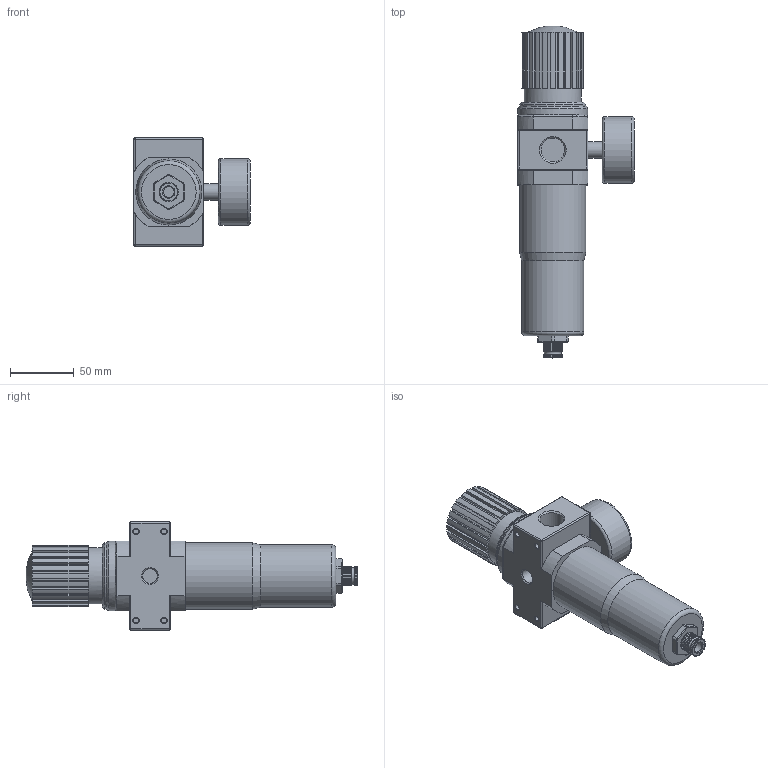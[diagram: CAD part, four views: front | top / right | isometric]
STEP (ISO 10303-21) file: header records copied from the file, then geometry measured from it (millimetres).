
FILE_DESCRIPTION(/* description */ ('STEP AP214'),/* implementation_level */ '2;1');
FILE_NAME(/* name */ '90-FRC-12-xx-05-aa.stp',/* time_stamp */ '2026-01-20T15:00:46+01:00',/* author */ ('Tschernatsch'),/* organization */ ('CADENAS'),/* preprocessor_version */ 'ST-DEVELOPER v20',/* originating_system */ 'Autodesk Inventor 2024',/* authorisation */ ' ');
FILE_SCHEMA (('AUTOMOTIVE_DESIGN { 1 0 10303 214 3 1 1 }'));
Length unit declared in the file: millimetre
Products named in the file (1): LFR-G1/2-MIDI_
Bounding box: 91.5 x 261.01 x 85 mm (x, y, z)
Volume: 619327.2 mm3; surface area: 67112.8 mm2
Topology: 1 solids, 2 shells, 391 faces, 1063 edges, 683 vertices
Faces by surface type: plane 197, cylinder 160, torus 14, cone 11, sphere 8, bspline 1
Full cylindrical faces by diameter (mm): 4.134 x4, 8.566 x1, 11.445 x2, 13.157 x1, 18.631 x2, 44.6 x1, 49 x1, 52 x2, 52.5 x1, 55 x1
Entity records: 12785 total; most frequent: CARTESIAN_POINT 2747, DIRECTION 2137, ORIENTED_EDGE 2108, EDGE_CURVE 1054, AXIS2_PLACEMENT_3D 788, VERTEX_POINT 683, LINE 561, VECTOR 561
